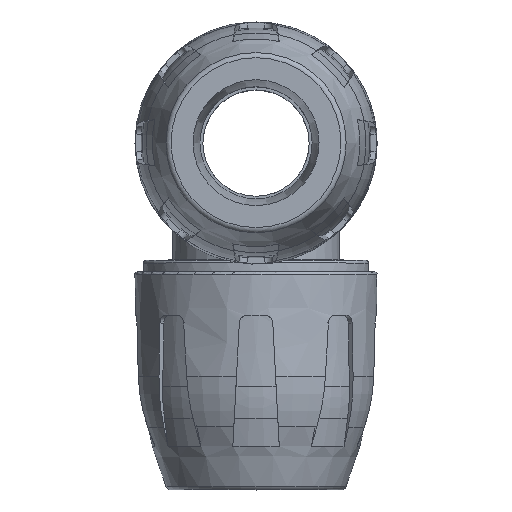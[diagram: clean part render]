
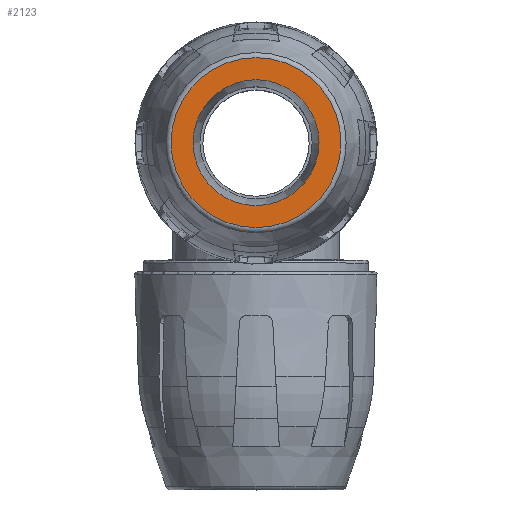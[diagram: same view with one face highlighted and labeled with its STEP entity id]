
A CAD part, top view. The second image highlights one B-rep face of the part: STEP entity #2123.
In plain terms, the highlighted planar face has unit normal (0, 0, 1).
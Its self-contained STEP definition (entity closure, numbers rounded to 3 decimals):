
#2123 = ADVANCED_FACE( '', ( #4440, #4441 ), #4442, .F. );
#4440 = FACE_BOUND( '', #15177, .T. );
#4441 = FACE_OUTER_BOUND( '', #15178, .T. );
#4442 = PLANE( '', #15179 );
#15177 = EDGE_LOOP( '', ( #21985 ) );
#15178 = EDGE_LOOP( '', ( #21986 ) );
#15179 = AXIS2_PLACEMENT_3D( '', #21987, #21988, #21989 );
#21985 = ORIENTED_EDGE( '', *, *, #25581, .T. );
#21986 = ORIENTED_EDGE( '', *, *, #23778, .T. );
#21987 = CARTESIAN_POINT( '', ( 16.304, 0., 14.76 ) );
#21988 = DIRECTION( '', ( 0., 0., -1. ) );
#21989 = DIRECTION( '', ( 1., 0., 0. ) );
#23778 = EDGE_CURVE( '', #27022, #27022, #27023, .F. );
#25581 = EDGE_CURVE( '', #29541, #29541, #29542, .T. );
#27022 = VERTEX_POINT( '', #33000 );
#27023 = CIRCLE( '', #33001, 15.591 );
#29541 = VERTEX_POINT( '', #38915 );
#29542 = CIRCLE( '', #38916, 11.556 );
#33000 = CARTESIAN_POINT( '', ( -15.591, 0., 14.76 ) );
#33001 = AXIS2_PLACEMENT_3D( '', #39957, #39958, #39959 );
#38915 = CARTESIAN_POINT( '', ( -11.556, 0., 14.76 ) );
#38916 = AXIS2_PLACEMENT_3D( '', #41906, #41907, #41908 );
#39957 = CARTESIAN_POINT( '', ( 0., 0., 14.76 ) );
#39958 = DIRECTION( '', ( 0., 0., -1. ) );
#39959 = DIRECTION( '', ( -1., 0., 0. ) );
#41906 = CARTESIAN_POINT( '', ( 0., 0., 14.76 ) );
#41907 = DIRECTION( '', ( 0., 0., -1. ) );
#41908 = DIRECTION( '', ( -1., 0., 0. ) );
